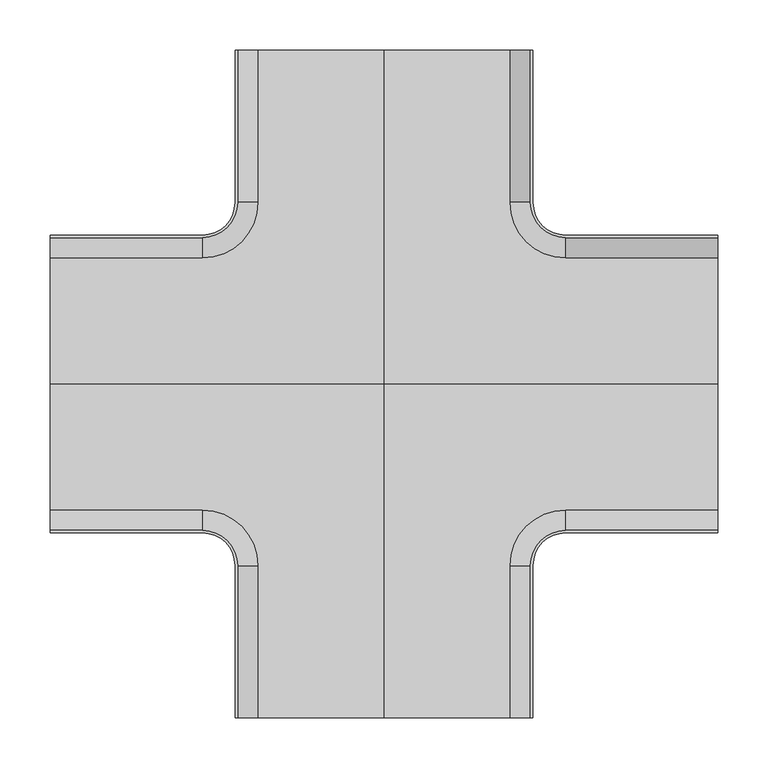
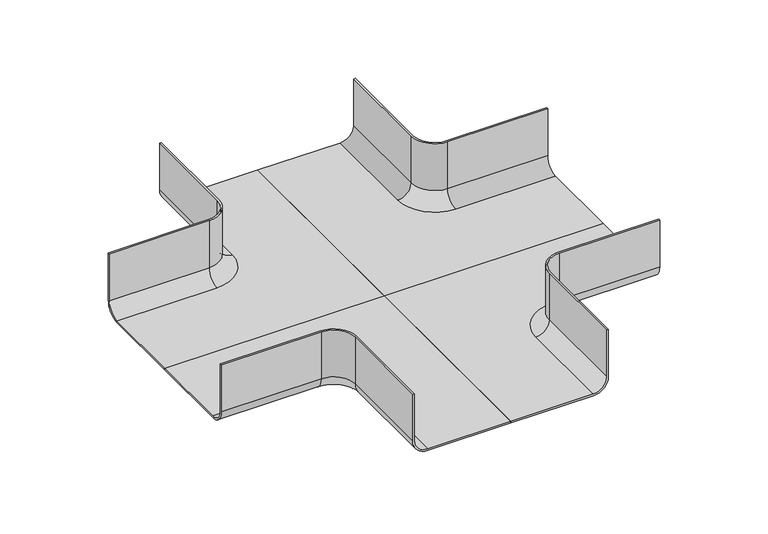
"""IFC4 building model written with IfcOpenShell, lengths in millimetres: cable carrier fitting geometry, CCT_Hyperline_FBTR-CRS_Ответвитель крестообразный пластиковый : Ответвитель крестообразный пластиковый."""

import ifcopenshell
import ifcopenshell.guid

model = None  # the IFC model being written
_history = None  # IfcOwnerHistory: only IFC2X3 demands one
_inside = {}  # id of a spatial element -> (the spatial element, [elements in it])
_under = {}  # id of a project, library or spatial element -> (it, [spatial elements below it])
_declared = {}  # id of a project -> (the project, [libraries it declares])
_typed = {}  # id of a type object -> (the type object, [elements of that type])
_made_of = {}  # id of a material, layer set ... -> (it, [elements and type objects made of it])


def new_model(schema):
    """Start an empty IFC model of exactly this schema.

    Asked for "IFC4X3", IfcOpenShell would pick the latest addendum, in which some entities
    have other attributes; the version numbers below select the first issue.
    IFC2X3 requires an IfcOwnerHistory on every rooted entity: one is made here for all.
    """
    global model, _history
    if schema == "IFC4X3":
        model = ifcopenshell.file(schema_version=(4, 3, 0, 0))
    else:
        model = ifcopenshell.file(schema=schema)
    _inside.clear()
    _under.clear()
    _declared.clear()
    _typed.clear()
    _made_of.clear()
    _history = None
    if model.schema == "IFC2X3":
        org = make("IfcOrganization", Name="unknown")
        user = make(
            "IfcPersonAndOrganization",
            ThePerson=make("IfcPerson", FamilyName="unknown"),
            TheOrganization=org,
        )
        app = make(
            "IfcApplication",
            ApplicationDeveloper=org,
            Version="unknown",
            ApplicationFullName="unknown",
            ApplicationIdentifier="unknown",
        )
        _history = make(
            "IfcOwnerHistory",
            OwningUser=user,
            OwningApplication=app,
            ChangeAction="ADDED",
            CreationDate=0,
        )
    return model


def make(cls, **values):
    """One entity of the class cls with the attributes given. An attribute that is None is left unset."""
    return model.create_entity(
        cls, **{name: value for name, value in values.items() if value is not None}
    )


def rooted(cls, **values):
    """An entity with a GlobalId (a new one), such as an element, a storey or a relation."""
    return make(cls, GlobalId=ifcopenshell.guid.new(), OwnerHistory=_history, **values)


def si_unit(unit_type, name, prefix=None):
    """IfcSIUnit, for example si_unit("LENGTHUNIT", "METRE", prefix="MILLI")."""
    return make("IfcSIUnit", UnitType=unit_type, Prefix=prefix, Name=name)


def assignment(units):
    """IfcUnitAssignment: the units of a project."""
    return None if units is None else make("IfcUnitAssignment", Units=units)


def point(xyz):
    """IfcCartesianPoint."""
    return None if xyz is None else make("IfcCartesianPoint", Coordinates=xyz)


def direction(xyz):
    """IfcDirection."""
    return None if xyz is None else make("IfcDirection", DirectionRatios=xyz)


def frame(location, z_axis=None, x_axis=None):
    """IfcAxis2Placement3D, a coordinate frame: its origin and axes. An axis left out is left unset."""
    return make(
        "IfcAxis2Placement3D",
        Location=point(location),
        Axis=direction(z_axis),
        RefDirection=direction(x_axis),
    )


def origin():
    """The frame at (0, 0, 0) with its axes left unset."""
    return frame((0.0, 0.0, 0.0))


def place(relative_to, where):
    """IfcLocalPlacement: puts the frame where relative to a parent placement (None: the world)."""
    return make(
        "IfcLocalPlacement", PlacementRelTo=relative_to, RelativePlacement=where
    )


def context(
    kind, dimensions, precision=None, world=None, true_north=None, identifier=None
):
    """IfcGeometricRepresentationContext, for example the 3D "Model" context."""
    return make(
        "IfcGeometricRepresentationContext",
        ContextIdentifier=identifier,
        ContextType=kind,
        CoordinateSpaceDimension=dimensions,
        Precision=precision,
        WorldCoordinateSystem=world,
        TrueNorth=true_north,
    )


def project(units=None, contexts=None):
    """IfcProject with its units and contexts."""
    return rooted(
        "IfcProject",
        Name="project",
        RepresentationContexts=contexts,
        UnitsInContext=assignment(units),
    )


def spatial(cls, under=None, at=None, **own):
    """A site, building, storey or space (cls), placed at a placement, below another one or the project."""
    s = rooted(cls, ObjectPlacement=at, **own)
    if under is not None:
        _under.setdefault(under.id(), (under, []))[1].append(s)
    return s


def polyline(points):
    """IfcPolyline through the points."""
    return make("IfcPolyline", Points=[point(p) for p in points])


def circle_curve(where, radius):
    """IfcCircle in the frame where."""
    return make("IfcCircle", Position=where, Radius=radius)


def ellipse_curve(where, semi_axis1, semi_axis2):
    """IfcEllipse in the frame where."""
    return make(
        "IfcEllipse", Position=where, SemiAxis1=semi_axis1, SemiAxis2=semi_axis2
    )


def trimmed(basis, trim1, trim2, sense, master):
    """IfcTrimmedCurve: the piece of a basis curve between two trims."""
    return make(
        "IfcTrimmedCurve",
        BasisCurve=basis,
        Trim1=trim1,
        Trim2=trim2,
        SenseAgreement=sense,
        MasterRepresentation=master,
    )


def shape(context_of_items, identifier, shape_type, items):
    """IfcShapeRepresentation: the items that make up one representation, for example the "Body"."""
    return make(
        "IfcShapeRepresentation",
        ContextOfItems=context_of_items,
        RepresentationIdentifier=identifier,
        RepresentationType=shape_type,
        Items=items,
    )


def source(mapping_origin, context_of_items, identifier, shape_type, items):
    """IfcRepresentationMap: a shape defined once, which mapped items show again and again."""
    return make(
        "IfcRepresentationMap",
        MappingOrigin=mapping_origin,
        MappedRepresentation=shape(context_of_items, identifier, shape_type, items),
    )


def transform(
    local_origin,
    x_axis=None,
    y_axis=None,
    z_axis=None,
    scale=None,
    scale2=None,
    scale3=None,
    uniform=True,
):
    """IfcCartesianTransformationOperator3D, or its non-uniform kind. x_axis, y_axis, z_axis: its Axis1, 2, 3."""
    if uniform:
        return make(
            "IfcCartesianTransformationOperator3D",
            Axis1=direction(x_axis),
            Axis2=direction(y_axis),
            LocalOrigin=point(local_origin),
            Scale=scale,
            Axis3=direction(z_axis),
        )
    return make(
        "IfcCartesianTransformationOperator3DnonUniform",
        Axis1=direction(x_axis),
        Axis2=direction(y_axis),
        LocalOrigin=point(local_origin),
        Scale=scale,
        Axis3=direction(z_axis),
        Scale2=scale2,
        Scale3=scale3,
    )


def mapped(mapping_source, mapping_target):
    """IfcMappedItem: shows the shape of a source again, moved by a transform."""
    return make(
        "IfcMappedItem", MappingSource=mapping_source, MappingTarget=mapping_target
    )


def made_of(thing, what):
    """Note that an element or type object is made of a material, layer set ...; save() writes the relation."""
    if what is not None:
        _made_of.setdefault(what.id(), (what, []))[1].append(thing)
    return thing


def element(
    cls,
    number,
    at=None,
    inside=None,
    cuts=None,
    type_object=None,
    material=None,
    context=None,
    identifier="Body",
    shape_type=None,
    held_by="IfcProductDefinitionShape",
    body=None,
    shapes=None,
    **own,
):
    """One element of the class cls, such as IfcWall. Its Tag is "e" and its number.

    at: its placement. inside: the storey or other place that contains it. cuts: it is an
    opening in that element (IfcRelVoidsElement). A single representation is given by context,
    identifier, shape_type and body (its items); several are given by shapes. held_by: the class
    of the entity that holds the representations. save() writes the other relations.
    """
    e = rooted(cls, Tag="e%d" % number, ObjectPlacement=at, **own)
    if body is not None:
        shapes = [shape(context, identifier, shape_type, body)]
    if shapes is not None:
        e.Representation = make(held_by, Representations=shapes)
    if inside is not None:
        _inside.setdefault(inside.id(), (inside, []))[1].append(e)
    if cuts is not None:
        rooted(
            "IfcRelVoidsElement", RelatingBuildingElement=cuts, RelatedOpeningElement=e
        )
    if type_object is not None:
        _typed.setdefault(type_object.id(), (type_object, []))[1].append(e)
    return made_of(e, material)


def aggregate(whole, parts):
    """IfcRelAggregates: a whole, such as a stair, and the parts it consists of."""
    return rooted("IfcRelAggregates", RelatingObject=whole, RelatedObjects=parts)


def save(model, path):
    """Write the relations noted so far, then the file.

    IfcRelAggregates (storeys below a building ...), IfcRelContainedInSpatialStructure (elements
    in a storey), IfcRelDefinesByType, IfcRelAssociatesMaterial and IfcRelDeclares: one each for
    every whole, place, type object, material and project.
    """
    for whole, parts in _under.values():
        aggregate(whole, parts)
    for where, things in _inside.values():
        rooted(
            "IfcRelContainedInSpatialStructure",
            RelatedElements=things,
            RelatingStructure=where,
        )
    for kind, things in _typed.values():
        rooted("IfcRelDefinesByType", RelatedObjects=things, RelatingType=kind)
    for what, things in _made_of.values():
        rooted("IfcRelAssociatesMaterial", RelatedObjects=things, RelatingMaterial=what)
    for by, libraries in _declared.values():
        rooted("IfcRelDeclares", RelatingContext=by, RelatedDefinitions=libraries)
    model.write(path)


def plane_surface(at):
    """IfcPlane: the flat surface through the origin of the frame at, square to its z axis."""
    return make("IfcPlane", Position=at)


def cylinder_surface(at, radius):
    """IfcCylindricalSurface: all points at the distance radius from the z axis of the frame at."""
    return make("IfcCylindricalSurface", Position=at, Radius=radius)


def revolved_surface(curve, axis_point, axis_direction):
    """IfcSurfaceOfRevolution: the curve turned about the line through axis_point along axis_direction."""
    return make(
        "IfcSurfaceOfRevolution",
        SweptCurve=make("IfcArbitraryOpenProfileDef", ProfileType="CURVE", Curve=curve),
        AxisPosition=make("IfcAxis1Placement", Location=point(axis_point), Axis=direction(axis_direction)),
    )


def advanced_brep(points, edges, surfaces, faces):
    """IfcAdvancedBrep: a solid bounded by faces that lie on surfaces and meet in shared edges.

    An edge is (start, end): straight between two places in points (the first is 0);
    or (start, end, curve); or (start, end, curve, False) where it runs against its curve.
    A face is (place in surfaces, loops), or (place, loops, False) where it looks against
    its surface's normal. A loop lists edges by number (the first is 1), with a minus sign
    where the edge is run from its end to its start. The first loop is the outer one.
    """
    corners = [point(p) for p in points]
    vertices = [make("IfcVertexPoint", VertexGeometry=c) for c in corners]
    made = []
    for start, end, *more in edges:
        made.append(
            make(
                "IfcEdgeCurve",
                EdgeStart=vertices[start],
                EdgeEnd=vertices[end],
                EdgeGeometry=more[0] if more else make("IfcPolyline", Points=[corners[start], corners[end]]),
                SameSense=more[1] if len(more) > 1 else True,
            )
        )
    hull = []
    for where, loops, *sense in faces:
        bounds = []
        for j, loop in enumerate(loops):
            ring = [make("IfcOrientedEdge", EdgeElement=made[abs(k) - 1], Orientation=k > 0) for k in loop]
            bounds.append(
                make(
                    "IfcFaceOuterBound" if j == 0 else "IfcFaceBound",
                    Bound=make("IfcEdgeLoop", EdgeList=ring),
                    Orientation=True,
                )
            )
        hull.append(make("IfcAdvancedFace", Bounds=bounds, FaceSurface=surfaces[where], SameSense=sense[0] if sense else True))
    return make("IfcAdvancedBrep", Outer=make("IfcClosedShell", CfsFaces=hull))


def cable_carrier_fitting_dcf25ac8(model_context):
    return source(origin(), model_context, "Body", "AdvancedBrep", [
        advanced_brep(
        [(-330.5, -147.54, -25.0), (-330.5, -147.54, 50.0), (-330.5, -145.0, 50.0), (-330.5, -145.0, -25.0), (-330.5, -125.0, -45.0), (-330.5, 0.0, -45.0), (-330.5, 0.0, -47.54), (-330.5, -125.0, -47.54), (-180.0, -125.0, -47.54), (-180.0, -147.54, -25.0), (-180.0, -145.0, -25.0), (-180.0, -125.0, -45.0), (-180.0, -145.0, 50.0), (-180.0, -147.54, 50.0), (-147.54, -180.0, 50.0), (-147.54, -330.5, 50.0), (-145.0, -330.5, 50.0), (-145.0, -180.0, 50.0), (-125.0, -180.0, -47.54), (-147.54, -180.0, -25.0), (-145.0, -180.0, -25.0), (-125.0, -180.0, -45.0), (0.0, -330.5, -47.54), (0.0, -330.5, -45.0), (-125.0, -330.5, -45.0), (-145.0, -330.5, -25.0), (-147.54, -330.5, -25.0), (-125.0, -330.5, -47.54), (0.0, 0.0, -45.0), (0.0, 0.0, -47.54)],
        [
            (0, 1),
            (1, 2),
            (2, 3),
            (3, 4, circle_curve(frame((-330.5, -125.0, -25.0), z_axis=(1.0, 0.0, 0.0), x_axis=(0.0, -1.0, 0.0)), 20.0)),
            (4, 5),
            (5, 6),
            (6, 7),
            (7, 0, circle_curve(frame((-330.5, -125.0, -25.0), z_axis=(-1.0, 0.0, 0.0), x_axis=(0.0, -1.0, 0.0)), 22.54)),
            (7, 8),
            (8, 9, circle_curve(frame((-180.0, -125.0, -25.0), z_axis=(-1.0, 0.0, 0.0), x_axis=(0.0, -1.0, 0.0)), 22.54)),
            (9, 0),
            (3, 10),
            (10, 11, circle_curve(frame((-180.0, -125.0, -25.0), z_axis=(1.0, 0.0, 0.0), x_axis=(0.0, -1.0, 0.0)), 20.0)),
            (11, 4),
            (2, 12),
            (12, 10),
            (1, 13),
            (13, 14, circle_curve(frame((-180.0, -180.0, 50.0), z_axis=(0.0, 0.0, -1.0), x_axis=(0.0, 1.0, 0.0)), 32.46)),
            (14, 15),
            (15, 16),
            (16, 17),
            (17, 12, circle_curve(frame((-180.0, -180.0, 50.0), z_axis=(0.0, 0.0, 1.0), x_axis=(0.0, 1.0, 0.0)), 35.0)),
            (9, 13),
            (8, 18, circle_curve(frame((-180.0, -180.0, -47.54), z_axis=(0.0, 0.0, -1.0), x_axis=(0.0, 1.0, 0.0)), 55.0)),
            (18, 19, circle_curve(frame((-125.0, -180.0, -25.0), z_axis=(0.0, 1.0, 0.0), x_axis=(-1.0, 0.0, 0.0)), 22.54)),
            (19, 9, circle_curve(frame((-180.0, -180.0, -25.0), z_axis=(0.0, 0.0, 1.0), x_axis=(0.0, 1.0, 0.0)), 32.46)),
            (10, 20, circle_curve(frame((-180.0, -180.0, -25.0), z_axis=(0.0, 0.0, -1.0), x_axis=(0.0, 1.0, 0.0)), 35.0)),
            (20, 21, circle_curve(frame((-125.0, -180.0, -25.0), z_axis=(0.0, -1.0, 0.0), x_axis=(-1.0, 0.0, 0.0)), 20.0)),
            (21, 11, circle_curve(frame((-180.0, -180.0, -45.0), z_axis=(0.0, 0.0, 1.0), x_axis=(0.0, 1.0, 0.0)), 55.0)),
            (17, 20),
            (19, 14),
            (22, 23),
            (23, 24),
            (24, 25, circle_curve(frame((-125.0, -330.5, -25.0), z_axis=(0.0, 1.0, 0.0), x_axis=(-1.0, 0.0, 0.0)), 20.0)),
            (25, 16),
            (15, 26),
            (26, 27, circle_curve(frame((-125.0, -330.5, -25.0), z_axis=(0.0, -1.0, 0.0), x_axis=(-1.0, 0.0, 0.0)), 22.54)),
            (27, 22),
            (26, 19),
            (18, 27),
            (20, 25),
            (24, 21),
            (23, 28),
            (28, 5),
            (6, 29),
            (29, 22),
            (28, 29),
        ],
        [
            plane_surface(frame((-330.5, -145.0, 0.0), z_axis=(-1.0, 0.0, 0.0), x_axis=(0.0, 0.0, 1.0))),
            cylinder_surface(frame((-330.5, -125.0, -25.0), z_axis=(-1.0, 0.0, 0.0), x_axis=(0.0, -1.0, 0.0)), 22.54),
            revolved_surface(polyline([(-180.0, -145.0, -25.0), (-330.5, -145.0, -25.0)]), (-330.5, -125.0, -25.0), (1.0, 0.0, 0.0)),
            plane_surface(frame((-330.5, -145.0, -25.0), z_axis=(0.0, 1.0, 0.0), x_axis=(1.0, 0.0, 0.0))),
            plane_surface(frame((-330.5, -145.0, 50.0), z_axis=(0.0, 0.0, 1.0), x_axis=(1.0, 0.0, 0.0))),
            plane_surface(frame((-330.5, -147.54, 50.0), z_axis=(0.0, -1.0, 0.0), x_axis=(1.0, 0.0, 0.0))),
            revolved_surface(trimmed(ellipse_curve(frame((-180.0, -125.0, -25.0), z_axis=(1.0, 0.0, 0.0), x_axis=(0.0, -1.0, 0.0)), 22.54, 22.54), [point((-180.0, -147.54, -25.0))], [point((-180.0, -125.0, -47.54))], True, "CARTESIAN"), (-180.0, -180.0, 0.0), (0.0, 0.0, 1.0)),
            revolved_surface(trimmed(ellipse_curve(frame((-180.0, -125.0, -25.0), z_axis=(-1.0, 0.0, 0.0), x_axis=(0.0, -1.0, 0.0)), 20.0, 20.0), [point((-180.0, -125.0, -45.0))], [point((-180.0, -145.0, -25.0))], True, "CARTESIAN"), (-180.0, -180.0, 0.0), (0.0, 0.0, 1.0)),
            cylinder_surface(frame((-180.0, -180.0, 0.0), z_axis=(0.0, 0.0, 1.0), x_axis=(0.0, 1.0, 0.0)), 35.0),
            revolved_surface(polyline([(-180.0, -147.54, 50.0), (-180.0, -147.54, -25.0)]), (-180.0, -180.0, 0.0), (0.0, 0.0, 1.0)),
            plane_surface(frame((-145.0, -330.5, 0.0), z_axis=(0.0, -1.0, 0.0), x_axis=(0.0, 0.0, 1.0))),
            cylinder_surface(frame((-125.0, -180.0, -25.0), z_axis=(0.0, 1.0, 0.0), x_axis=(-1.0, 0.0, 0.0)), 22.54),
            revolved_surface(polyline([(-145.0, -330.5, -25.0), (-145.0, -180.0, -25.0)]), (-125.0, -180.0, -25.0), (0.0, -1.0, 0.0)),
            plane_surface(frame((-145.0, -180.0, -25.0), z_axis=(1.0, 0.0, 0.0), x_axis=(0.0, -1.0, 0.0))),
            plane_surface(frame((-147.54, -180.0, 50.0), z_axis=(-1.0, 0.0, 0.0), x_axis=(0.0, -1.0, 0.0))),
            plane_surface(frame((0.0, -180.0, -45.0), z_axis=(0.0, 0.0, 1.0), x_axis=(0.0, 1.0, 0.0))),
            plane_surface(frame((0.0, -180.0, -47.54), z_axis=(0.0, 0.0, -1.0), x_axis=(0.0, -1.0, 0.0))),
            plane_surface(frame((-180.0, 0.0, -45.0), z_axis=(0.0, 1.0, 0.0), x_axis=(0.0, 0.0, -1.0))),
            plane_surface(frame((0.0, 0.0, -45.0), z_axis=(1.0, 0.0, 0.0), x_axis=(0.0, 0.0, -1.0))),
        ],
        [
            (0, [[1, 2, 3, 4, 5, 6, 7, 8]]),
            (1, [[9, 10, 11, -8]]),
            (2, [[12, 13, 14, -4]]),
            (3, [[15, 16, -12, -3]]),
            (4, [[17, 18, 19, 20, 21, 22, -15, -2]]),
            (5, [[-11, 23, -17, -1]]),
            (6, [[24, 25, 26, -10]]),
            (7, [[-13, 27, 28, 29]]),
            (8, [[-22, 30, -27, -16]]),
            (9, [[-23, -26, 31, -18]]),
            (10, [[32, 33, 34, 35, -20, 36, 37, 38]]),
            (11, [[-37, 39, -25, 40]]),
            (12, [[-28, 41, -34, 42]]),
            (13, [[-35, -41, -30, -21]]),
            (14, [[-31, -39, -36, -19]]),
            (15, [[43, 44, -5, -14, -29, -42, -33]]),
            (16, [[45, 46, -38, -40, -24, -9, -7]]),
            (17, [[47, -45, -6, -44]]),
            (18, [[-32, -46, -47, -43]]),
        ],
    ),
        advanced_brep(
        [(330.5, -147.54, -25.0), (330.5, -125.0, -47.54), (330.5, 0.0, -47.54), (330.5, 0.0, -45.0), (330.5, -125.0, -45.0), (330.5, -145.0, -25.0), (330.5, -145.0, 50.0), (330.5, -147.54, 50.0), (180.0, -147.54, -25.0), (180.0, -125.0, -47.54), (180.0, -125.0, -45.0), (180.0, -145.0, -25.0), (180.0, -145.0, 50.0), (145.0, -180.0, 50.0), (145.0, -330.5, 50.0), (147.54, -330.5, 50.0), (147.54, -180.0, 50.0), (180.0, -147.54, 50.0), (147.54, -180.0, -25.0), (125.0, -180.0, -47.54), (125.0, -180.0, -45.0), (145.0, -180.0, -25.0), (0.0, -330.5, -47.54), (125.0, -330.5, -47.54), (147.54, -330.5, -25.0), (145.0, -330.5, -25.0), (125.0, -330.5, -45.0), (0.0, -330.5, -45.0), (0.0, 0.0, -45.0), (0.0, 0.0, -47.54)],
        [
            (0, 1, circle_curve(frame((330.5, -125.0, -25.0), z_axis=(1.0, 0.0, 0.0), x_axis=(0.0, -1.0, 0.0)), 22.54)),
            (1, 2),
            (2, 3),
            (3, 4),
            (4, 5, circle_curve(frame((330.5, -125.0, -25.0), z_axis=(-1.0, 0.0, 0.0), x_axis=(0.0, -1.0, 0.0)), 20.0)),
            (5, 6),
            (6, 7),
            (7, 0),
            (0, 8),
            (8, 9, circle_curve(frame((180.0, -125.0, -25.0), z_axis=(1.0, 0.0, 0.0), x_axis=(0.0, -1.0, 0.0)), 22.54)),
            (9, 1),
            (4, 10),
            (10, 11, circle_curve(frame((180.0, -125.0, -25.0), z_axis=(-1.0, 0.0, 0.0), x_axis=(0.0, -1.0, 0.0)), 20.0)),
            (11, 5),
            (11, 12),
            (12, 6),
            (12, 13, circle_curve(frame((180.0, -180.0, 50.0), z_axis=(0.0, 0.0, 1.0), x_axis=(0.0, 1.0, 0.0)), 35.0)),
            (13, 14),
            (14, 15),
            (15, 16),
            (16, 17, circle_curve(frame((180.0, -180.0, 50.0), z_axis=(0.0, 0.0, -1.0), x_axis=(0.0, 1.0, 0.0)), 32.46)),
            (17, 7),
            (17, 8),
            (8, 18, circle_curve(frame((180.0, -180.0, -25.0), z_axis=(0.0, 0.0, 1.0), x_axis=(0.0, 1.0, 0.0)), 32.46)),
            (18, 19, circle_curve(frame((125.0, -180.0, -25.0), z_axis=(0.0, 1.0, 0.0), x_axis=(1.0, 0.0, 0.0)), 22.54)),
            (19, 9, circle_curve(frame((180.0, -180.0, -47.54), z_axis=(0.0, 0.0, -1.0), x_axis=(0.0, 1.0, 0.0)), 55.0)),
            (10, 20, circle_curve(frame((180.0, -180.0, -45.0), z_axis=(0.0, 0.0, 1.0), x_axis=(0.0, 1.0, 0.0)), 55.0)),
            (20, 21, circle_curve(frame((125.0, -180.0, -25.0), z_axis=(0.0, -1.0, 0.0), x_axis=(1.0, 0.0, 0.0)), 20.0)),
            (21, 11, circle_curve(frame((180.0, -180.0, -25.0), z_axis=(0.0, 0.0, -1.0), x_axis=(0.0, 1.0, 0.0)), 35.0)),
            (21, 13),
            (16, 18),
            (22, 23),
            (23, 24, circle_curve(frame((125.0, -330.5, -25.0), z_axis=(0.0, -1.0, 0.0), x_axis=(1.0, 0.0, 0.0)), 22.54)),
            (24, 15),
            (14, 25),
            (25, 26, circle_curve(frame((125.0, -330.5, -25.0), z_axis=(0.0, 1.0, 0.0), x_axis=(1.0, 0.0, 0.0)), 20.0)),
            (26, 27),
            (27, 22),
            (23, 19),
            (18, 24),
            (20, 26),
            (25, 21),
            (3, 28),
            (28, 27),
            (22, 29),
            (29, 2),
            (29, 28),
        ],
        [
            plane_surface(frame((330.5, -145.0, 0.0), z_axis=(1.0, 0.0, 0.0), x_axis=(0.0, 0.0, 1.0))),
            cylinder_surface(frame((330.5, -125.0, -25.0), z_axis=(1.0, 0.0, 0.0), x_axis=(0.0, -1.0, 0.0)), 22.54),
            revolved_surface(polyline([(180.0, -145.0, -25.0), (330.5, -145.0, -25.0)]), (330.5, -125.0, -25.0), (-1.0, 0.0, 0.0)),
            plane_surface(frame((330.5, -145.0, -25.0), z_axis=(0.0, 1.0, 0.0), x_axis=(-1.0, 0.0, 0.0))),
            plane_surface(frame((330.5, -145.0, 50.0), z_axis=(0.0, 0.0, 1.0), x_axis=(-1.0, 0.0, 0.0))),
            plane_surface(frame((330.5, -147.54, 50.0), z_axis=(0.0, -1.0, 0.0), x_axis=(-1.0, 0.0, 0.0))),
            revolved_surface(trimmed(ellipse_curve(frame((180.0, -125.0, -25.0), z_axis=(1.0, 0.0, 0.0), x_axis=(0.0, -1.0, 0.0)), 22.54, 22.54), [point((180.0, -147.54, -25.0))], [point((180.0, -125.0, -47.54))], True, "CARTESIAN"), (180.0, -180.0, 0.0), (0.0, 0.0, 1.0)),
            revolved_surface(trimmed(ellipse_curve(frame((180.0, -125.0, -25.0), z_axis=(-1.0, 0.0, 0.0), x_axis=(0.0, -1.0, 0.0)), 20.0, 20.0), [point((180.0, -125.0, -45.0))], [point((180.0, -145.0, -25.0))], True, "CARTESIAN"), (180.0, -180.0, 0.0), (0.0, 0.0, 1.0)),
            cylinder_surface(frame((180.0, -180.0, 0.0), z_axis=(0.0, 0.0, 1.0), x_axis=(0.0, 1.0, 0.0)), 35.0),
            revolved_surface(polyline([(180.0, -147.54, 50.0), (180.0, -147.54, -25.0)]), (180.0, -180.0, 0.0), (0.0, 0.0, 1.0)),
            plane_surface(frame((145.0, -330.5, 0.0), z_axis=(0.0, -1.0, 0.0), x_axis=(0.0, 0.0, 1.0))),
            cylinder_surface(frame((125.0, -180.0, -25.0), z_axis=(0.0, 1.0, 0.0), x_axis=(1.0, 0.0, 0.0)), 22.54),
            revolved_surface(polyline([(145.0, -330.5, -25.0), (145.0, -180.0, -25.0)]), (125.0, -180.0, -25.0), (0.0, -1.0, 0.0)),
            plane_surface(frame((145.0, -180.0, -25.0), z_axis=(-1.0, 0.0, 0.0), x_axis=(0.0, -1.0, 0.0))),
            plane_surface(frame((147.54, -180.0, 50.0), z_axis=(1.0, 0.0, 0.0), x_axis=(0.0, -1.0, 0.0))),
            plane_surface(frame((0.0, -180.0, -45.0), z_axis=(0.0, 0.0, 1.0), x_axis=(0.0, 1.0, 0.0))),
            plane_surface(frame((0.0, -180.0, -47.54), z_axis=(0.0, 0.0, -1.0), x_axis=(0.0, -1.0, 0.0))),
            plane_surface(frame((180.0, 0.0, -45.0), z_axis=(0.0, 1.0, 0.0), x_axis=(0.0, 0.0, -1.0))),
            plane_surface(frame((0.0, 0.0, -45.0), z_axis=(-1.0, 0.0, 0.0), x_axis=(0.0, 0.0, -1.0))),
        ],
        [
            (0, [[1, 2, 3, 4, 5, 6, 7, 8]]),
            (1, [[-1, 9, 10, 11]]),
            (2, [[-5, 12, 13, 14]]),
            (3, [[-6, -14, 15, 16]]),
            (4, [[-7, -16, 17, 18, 19, 20, 21, 22]]),
            (5, [[-8, -22, 23, -9]]),
            (6, [[-10, 24, 25, 26]]),
            (7, [[27, 28, 29, -13]]),
            (8, [[-15, -29, 30, -17]]),
            (9, [[-21, 31, -24, -23]]),
            (10, [[32, 33, 34, -19, 35, 36, 37, 38]]),
            (11, [[39, -25, 40, -33]]),
            (12, [[41, -36, 42, -28]]),
            (13, [[-18, -30, -42, -35]]),
            (14, [[-20, -34, -40, -31]]),
            (15, [[-37, -41, -27, -12, -4, 43, 44]]),
            (16, [[-2, -11, -26, -39, -32, 45, 46]]),
            (17, [[-43, -3, -46, 47]]),
            (18, [[-44, -47, -45, -38]]),
        ],
    ),
        advanced_brep(
        [(-330.5, 147.54, -25.0), (-330.5, 125.0, -47.54), (-330.5, 0.0, -47.54), (-330.5, 0.0, -45.0), (-330.5, 125.0, -45.0), (-330.5, 145.0, -25.0), (-330.5, 145.0, 50.0), (-330.5, 147.54, 50.0), (-180.0, 147.54, -25.0), (-180.0, 125.0, -47.54), (-180.0, 125.0, -45.0), (-180.0, 145.0, -25.0), (-180.0, 145.0, 50.0), (-145.0, 180.0, 50.0), (-145.0, 330.5, 50.0), (-147.54, 330.5, 50.0), (-147.54, 180.0, 50.0), (-180.0, 147.54, 50.0), (-147.54, 180.0, -25.0), (-125.0, 180.0, -47.54), (-125.0, 180.0, -45.0), (-145.0, 180.0, -25.0), (0.0, 330.5, -47.54), (-125.0, 330.5, -47.54), (-147.54, 330.5, -25.0), (-145.0, 330.5, -25.0), (-125.0, 330.5, -45.0), (0.0, 330.5, -45.0), (0.0, 0.0, -45.0), (0.0, 0.0, -47.54)],
        [
            (0, 1, circle_curve(frame((-330.5, 125.0, -25.0), z_axis=(-1.0, 0.0, 0.0), x_axis=(0.0, 1.0, 0.0)), 22.54)),
            (1, 2),
            (2, 3),
            (3, 4),
            (4, 5, circle_curve(frame((-330.5, 125.0, -25.0), z_axis=(1.0, 0.0, 0.0), x_axis=(0.0, 1.0, 0.0)), 20.0)),
            (5, 6),
            (6, 7),
            (7, 0),
            (0, 8),
            (8, 9, circle_curve(frame((-180.0, 125.0, -25.0), z_axis=(-1.0, 0.0, 0.0), x_axis=(0.0, 1.0, 0.0)), 22.54)),
            (9, 1),
            (4, 10),
            (10, 11, circle_curve(frame((-180.0, 125.0, -25.0), z_axis=(1.0, 0.0, 0.0), x_axis=(0.0, 1.0, 0.0)), 20.0)),
            (11, 5),
            (11, 12),
            (12, 6),
            (12, 13, circle_curve(frame((-180.0, 180.0, 50.0), z_axis=(0.0, 0.0, 1.0), x_axis=(0.0, -1.0, 0.0)), 35.0)),
            (13, 14),
            (14, 15),
            (15, 16),
            (16, 17, circle_curve(frame((-180.0, 180.0, 50.0), z_axis=(0.0, 0.0, -1.0), x_axis=(0.0, -1.0, 0.0)), 32.46)),
            (17, 7),
            (17, 8),
            (8, 18, circle_curve(frame((-180.0, 180.0, -25.0), z_axis=(0.0, 0.0, 1.0), x_axis=(0.0, -1.0, 0.0)), 32.46)),
            (18, 19, circle_curve(frame((-125.0, 180.0, -25.0), z_axis=(0.0, -1.0, 0.0), x_axis=(-1.0, 0.0, 0.0)), 22.54)),
            (19, 9, circle_curve(frame((-180.0, 180.0, -47.54), z_axis=(0.0, 0.0, -1.0), x_axis=(0.0, -1.0, 0.0)), 55.0)),
            (10, 20, circle_curve(frame((-180.0, 180.0, -45.0), z_axis=(0.0, 0.0, 1.0), x_axis=(0.0, -1.0, 0.0)), 55.0)),
            (20, 21, circle_curve(frame((-125.0, 180.0, -25.0), z_axis=(0.0, 1.0, 0.0), x_axis=(-1.0, 0.0, 0.0)), 20.0)),
            (21, 11, circle_curve(frame((-180.0, 180.0, -25.0), z_axis=(0.0, 0.0, -1.0), x_axis=(0.0, -1.0, 0.0)), 35.0)),
            (21, 13),
            (16, 18),
            (22, 23),
            (23, 24, circle_curve(frame((-125.0, 330.5, -25.0), z_axis=(0.0, 1.0, 0.0), x_axis=(-1.0, 0.0, 0.0)), 22.54)),
            (24, 15),
            (14, 25),
            (25, 26, circle_curve(frame((-125.0, 330.5, -25.0), z_axis=(0.0, -1.0, 0.0), x_axis=(-1.0, 0.0, 0.0)), 20.0)),
            (26, 27),
            (27, 22),
            (23, 19),
            (18, 24),
            (20, 26),
            (25, 21),
            (3, 28),
            (28, 27),
            (22, 29),
            (29, 2),
            (29, 28),
        ],
        [
            plane_surface(frame((-330.5, 145.0, 0.0), z_axis=(-1.0, 0.0, 0.0), x_axis=(0.0, 0.0, 1.0))),
            cylinder_surface(frame((-330.5, 125.0, -25.0), z_axis=(-1.0, 0.0, 0.0), x_axis=(0.0, 1.0, 0.0)), 22.54),
            revolved_surface(polyline([(-180.0, 145.0, -25.0), (-330.5, 145.0, -25.0)]), (-330.5, 125.0, -25.0), (1.0, 0.0, 0.0)),
            plane_surface(frame((-330.5, 145.0, -25.0), z_axis=(0.0, -1.0, 0.0), x_axis=(1.0, 0.0, 0.0))),
            plane_surface(frame((-330.5, 145.0, 50.0), z_axis=(0.0, 0.0, 1.0), x_axis=(1.0, 0.0, 0.0))),
            plane_surface(frame((-330.5, 147.54, 50.0), z_axis=(0.0, 1.0, 0.0), x_axis=(1.0, 0.0, 0.0))),
            revolved_surface(trimmed(ellipse_curve(frame((-180.0, 125.0, -25.0), z_axis=(-1.0, 0.0, 0.0), x_axis=(0.0, 1.0, 0.0)), 22.54, 22.54), [point((-180.0, 147.54, -25.0))], [point((-180.0, 125.0, -47.54))], True, "CARTESIAN"), (-180.0, 180.0, 0.0), (0.0, 0.0, 1.0)),
            revolved_surface(trimmed(ellipse_curve(frame((-180.0, 125.0, -25.0), z_axis=(1.0, 0.0, 0.0), x_axis=(0.0, 1.0, 0.0)), 20.0, 20.0), [point((-180.0, 125.0, -45.0))], [point((-180.0, 145.0, -25.0))], True, "CARTESIAN"), (-180.0, 180.0, 0.0), (0.0, 0.0, 1.0)),
            cylinder_surface(frame((-180.0, 180.0, 0.0), z_axis=(0.0, 0.0, 1.0), x_axis=(0.0, -1.0, 0.0)), 35.0),
            revolved_surface(polyline([(-180.0, 147.54, 50.0), (-180.0, 147.54, -25.0)]), (-180.0, 180.0, 0.0), (0.0, 0.0, 1.0)),
            plane_surface(frame((-145.0, 330.5, 0.0), z_axis=(0.0, 1.0, 0.0), x_axis=(0.0, 0.0, 1.0))),
            cylinder_surface(frame((-125.0, 180.0, -25.0), z_axis=(0.0, -1.0, 0.0), x_axis=(-1.0, 0.0, 0.0)), 22.54),
            revolved_surface(polyline([(-145.0, 330.5, -25.0), (-145.0, 180.0, -25.0)]), (-125.0, 180.0, -25.0), (0.0, 1.0, 0.0)),
            plane_surface(frame((-145.0, 180.0, -25.0), z_axis=(1.0, 0.0, 0.0), x_axis=(0.0, 1.0, 0.0))),
            plane_surface(frame((-147.54, 180.0, 50.0), z_axis=(-1.0, 0.0, 0.0), x_axis=(0.0, 1.0, 0.0))),
            plane_surface(frame((0.0, 180.0, -45.0), z_axis=(0.0, 0.0, 1.0), x_axis=(0.0, -1.0, 0.0))),
            plane_surface(frame((0.0, 180.0, -47.54), z_axis=(0.0, 0.0, -1.0), x_axis=(0.0, 1.0, 0.0))),
            plane_surface(frame((-180.0, 0.0, -45.0), z_axis=(0.0, -1.0, 0.0), x_axis=(0.0, 0.0, -1.0))),
            plane_surface(frame((0.0, 0.0, -45.0), z_axis=(1.0, 0.0, 0.0), x_axis=(0.0, 0.0, -1.0))),
        ],
        [
            (0, [[1, 2, 3, 4, 5, 6, 7, 8]]),
            (1, [[-1, 9, 10, 11]]),
            (2, [[-5, 12, 13, 14]]),
            (3, [[-6, -14, 15, 16]]),
            (4, [[-7, -16, 17, 18, 19, 20, 21, 22]]),
            (5, [[-8, -22, 23, -9]]),
            (6, [[-10, 24, 25, 26]]),
            (7, [[27, 28, 29, -13]]),
            (8, [[-15, -29, 30, -17]]),
            (9, [[-21, 31, -24, -23]]),
            (10, [[32, 33, 34, -19, 35, 36, 37, 38]]),
            (11, [[39, -25, 40, -33]]),
            (12, [[41, -36, 42, -28]]),
            (13, [[-18, -30, -42, -35]]),
            (14, [[-20, -34, -40, -31]]),
            (15, [[-37, -41, -27, -12, -4, 43, 44]]),
            (16, [[-2, -11, -26, -39, -32, 45, 46]]),
            (17, [[-43, -3, -46, 47]]),
            (18, [[-44, -47, -45, -38]]),
        ],
    ),
        advanced_brep(
        [(330.5, 147.54, -25.0), (330.5, 147.54, 50.0), (330.5, 145.0, 50.0), (330.5, 145.0, -25.0), (330.5, 125.0, -45.0), (330.5, 0.0, -45.0), (330.5, 0.0, -47.54), (330.5, 125.0, -47.54), (180.0, 125.0, -47.54), (180.0, 147.54, -25.0), (180.0, 145.0, -25.0), (180.0, 125.0, -45.0), (180.0, 145.0, 50.0), (180.0, 147.54, 50.0), (147.54, 180.0, 50.0), (147.54, 330.5, 50.0), (145.0, 330.5, 50.0), (145.0, 180.0, 50.0), (125.0, 180.0, -47.54), (147.54, 180.0, -25.0), (145.0, 180.0, -25.0), (125.0, 180.0, -45.0), (0.0, 330.5, -47.54), (0.0, 330.5, -45.0), (125.0, 330.5, -45.0), (145.0, 330.5, -25.0), (147.54, 330.5, -25.0), (125.0, 330.5, -47.54), (0.0, 0.0, -45.0), (0.0, 0.0, -47.54)],
        [
            (0, 1),
            (1, 2),
            (2, 3),
            (3, 4, circle_curve(frame((330.5, 125.0, -25.0), z_axis=(-1.0, 0.0, 0.0), x_axis=(0.0, 1.0, 0.0)), 20.0)),
            (4, 5),
            (5, 6),
            (6, 7),
            (7, 0, circle_curve(frame((330.5, 125.0, -25.0), z_axis=(1.0, 0.0, 0.0), x_axis=(0.0, 1.0, 0.0)), 22.54)),
            (7, 8),
            (8, 9, circle_curve(frame((180.0, 125.0, -25.0), z_axis=(1.0, 0.0, 0.0), x_axis=(0.0, 1.0, 0.0)), 22.54)),
            (9, 0),
            (3, 10),
            (10, 11, circle_curve(frame((180.0, 125.0, -25.0), z_axis=(-1.0, 0.0, 0.0), x_axis=(0.0, 1.0, 0.0)), 20.0)),
            (11, 4),
            (2, 12),
            (12, 10),
            (1, 13),
            (13, 14, circle_curve(frame((180.0, 180.0, 50.0), z_axis=(0.0, 0.0, -1.0), x_axis=(0.0, -1.0, 0.0)), 32.46)),
            (14, 15),
            (15, 16),
            (16, 17),
            (17, 12, circle_curve(frame((180.0, 180.0, 50.0), z_axis=(0.0, 0.0, 1.0), x_axis=(0.0, -1.0, 0.0)), 35.0)),
            (9, 13),
            (8, 18, circle_curve(frame((180.0, 180.0, -47.54), z_axis=(0.0, 0.0, -1.0), x_axis=(0.0, -1.0, 0.0)), 55.0)),
            (18, 19, circle_curve(frame((125.0, 180.0, -25.0), z_axis=(0.0, -1.0, 0.0), x_axis=(1.0, 0.0, 0.0)), 22.54)),
            (19, 9, circle_curve(frame((180.0, 180.0, -25.0), z_axis=(0.0, 0.0, 1.0), x_axis=(0.0, -1.0, 0.0)), 32.46)),
            (10, 20, circle_curve(frame((180.0, 180.0, -25.0), z_axis=(0.0, 0.0, -1.0), x_axis=(0.0, -1.0, 0.0)), 35.0)),
            (20, 21, circle_curve(frame((125.0, 180.0, -25.0), z_axis=(0.0, 1.0, 0.0), x_axis=(1.0, 0.0, 0.0)), 20.0)),
            (21, 11, circle_curve(frame((180.0, 180.0, -45.0), z_axis=(0.0, 0.0, 1.0), x_axis=(0.0, -1.0, 0.0)), 55.0)),
            (17, 20),
            (19, 14),
            (22, 23),
            (23, 24),
            (24, 25, circle_curve(frame((125.0, 330.5, -25.0), z_axis=(0.0, -1.0, 0.0), x_axis=(1.0, 0.0, 0.0)), 20.0)),
            (25, 16),
            (15, 26),
            (26, 27, circle_curve(frame((125.0, 330.5, -25.0), z_axis=(0.0, 1.0, 0.0), x_axis=(1.0, 0.0, 0.0)), 22.54)),
            (27, 22),
            (26, 19),
            (18, 27),
            (20, 25),
            (24, 21),
            (23, 28),
            (28, 5),
            (6, 29),
            (29, 22),
            (28, 29),
        ],
        [
            plane_surface(frame((330.5, 145.0, 0.0), z_axis=(1.0, 0.0, 0.0), x_axis=(0.0, 0.0, 1.0))),
            cylinder_surface(frame((330.5, 125.0, -25.0), z_axis=(1.0, 0.0, 0.0), x_axis=(0.0, 1.0, 0.0)), 22.54),
            revolved_surface(polyline([(180.0, 145.0, -25.0), (330.5, 145.0, -25.0)]), (330.5, 125.0, -25.0), (-1.0, 0.0, 0.0)),
            plane_surface(frame((330.5, 145.0, -25.0), z_axis=(0.0, -1.0, 0.0), x_axis=(-1.0, 0.0, 0.0))),
            plane_surface(frame((330.5, 145.0, 50.0), z_axis=(0.0, 0.0, 1.0), x_axis=(-1.0, 0.0, 0.0))),
            plane_surface(frame((330.5, 147.54, 50.0), z_axis=(0.0, 1.0, 0.0), x_axis=(-1.0, 0.0, 0.0))),
            revolved_surface(trimmed(ellipse_curve(frame((180.0, 125.0, -25.0), z_axis=(-1.0, 0.0, 0.0), x_axis=(0.0, 1.0, 0.0)), 22.54, 22.54), [point((180.0, 147.54, -25.0))], [point((180.0, 125.0, -47.54))], True, "CARTESIAN"), (180.0, 180.0, 0.0), (0.0, 0.0, 1.0)),
            revolved_surface(trimmed(ellipse_curve(frame((180.0, 125.0, -25.0), z_axis=(1.0, 0.0, 0.0), x_axis=(0.0, 1.0, 0.0)), 20.0, 20.0), [point((180.0, 125.0, -45.0))], [point((180.0, 145.0, -25.0))], True, "CARTESIAN"), (180.0, 180.0, 0.0), (0.0, 0.0, 1.0)),
            cylinder_surface(frame((180.0, 180.0, 0.0), z_axis=(0.0, 0.0, 1.0), x_axis=(0.0, -1.0, 0.0)), 35.0),
            revolved_surface(polyline([(180.0, 147.54, 50.0), (180.0, 147.54, -25.0)]), (180.0, 180.0, 0.0), (0.0, 0.0, 1.0)),
            plane_surface(frame((145.0, 330.5, 0.0), z_axis=(0.0, 1.0, 0.0), x_axis=(0.0, 0.0, 1.0))),
            cylinder_surface(frame((125.0, 180.0, -25.0), z_axis=(0.0, -1.0, 0.0), x_axis=(1.0, 0.0, 0.0)), 22.54),
            revolved_surface(polyline([(145.0, 330.5, -25.0), (145.0, 180.0, -25.0)]), (125.0, 180.0, -25.0), (0.0, 1.0, 0.0)),
            plane_surface(frame((145.0, 180.0, -25.0), z_axis=(-1.0, 0.0, 0.0), x_axis=(0.0, 1.0, 0.0))),
            plane_surface(frame((147.54, 180.0, 50.0), z_axis=(1.0, 0.0, 0.0), x_axis=(0.0, 1.0, 0.0))),
            plane_surface(frame((0.0, 180.0, -45.0), z_axis=(0.0, 0.0, 1.0), x_axis=(0.0, -1.0, 0.0))),
            plane_surface(frame((0.0, 180.0, -47.54), z_axis=(0.0, 0.0, -1.0), x_axis=(0.0, 1.0, 0.0))),
            plane_surface(frame((180.0, 0.0, -45.0), z_axis=(0.0, -1.0, 0.0), x_axis=(0.0, 0.0, -1.0))),
            plane_surface(frame((0.0, 0.0, -45.0), z_axis=(-1.0, 0.0, 0.0), x_axis=(0.0, 0.0, -1.0))),
        ],
        [
            (0, [[1, 2, 3, 4, 5, 6, 7, 8]]),
            (1, [[9, 10, 11, -8]]),
            (2, [[12, 13, 14, -4]]),
            (3, [[15, 16, -12, -3]]),
            (4, [[17, 18, 19, 20, 21, 22, -15, -2]]),
            (5, [[-11, 23, -17, -1]]),
            (6, [[24, 25, 26, -10]]),
            (7, [[-13, 27, 28, 29]]),
            (8, [[-22, 30, -27, -16]]),
            (9, [[-23, -26, 31, -18]]),
            (10, [[32, 33, 34, 35, -20, 36, 37, 38]]),
            (11, [[-37, 39, -25, 40]]),
            (12, [[-28, 41, -34, 42]]),
            (13, [[-35, -41, -30, -21]]),
            (14, [[-31, -39, -36, -19]]),
            (15, [[43, 44, -5, -14, -29, -42, -33]]),
            (16, [[45, 46, -38, -40, -24, -9, -7]]),
            (17, [[47, -45, -6, -44]]),
            (18, [[-32, -46, -47, -43]]),
        ],
    ),
    ])


if __name__ == "__main__":
    model = new_model("IFC4")
    model_context = context("Model", 3, world=origin())
    ifc_project = project(units=[si_unit("LENGTHUNIT", "METRE", prefix="MILLI")], contexts=[model_context])
    site = spatial("IfcSite", under=ifc_project)
    building = spatial("IfcBuilding", under=site)
    placement = place(None, origin())
    cable_carrier_fitting_shape = cable_carrier_fitting_dcf25ac8(model_context)
    element("IfcCableCarrierFitting", 1, ObjectType="CCT_Hyperline_FBTR-CRS_Ответвитель крестообразный пластиковый : Ответвитель крестообразный пластиковый", at=placement, inside=building, context=model_context, shape_type="MappedRepresentation", body=[
        mapped(cable_carrier_fitting_shape, transform((0.0, 0.0, 0.0), x_axis=(1.0, 0.0, 0.0), y_axis=(0.0, 1.0, 0.0), z_axis=(0.0, 0.0, 1.0))),
    ])
    save(model, "model.ifc")
